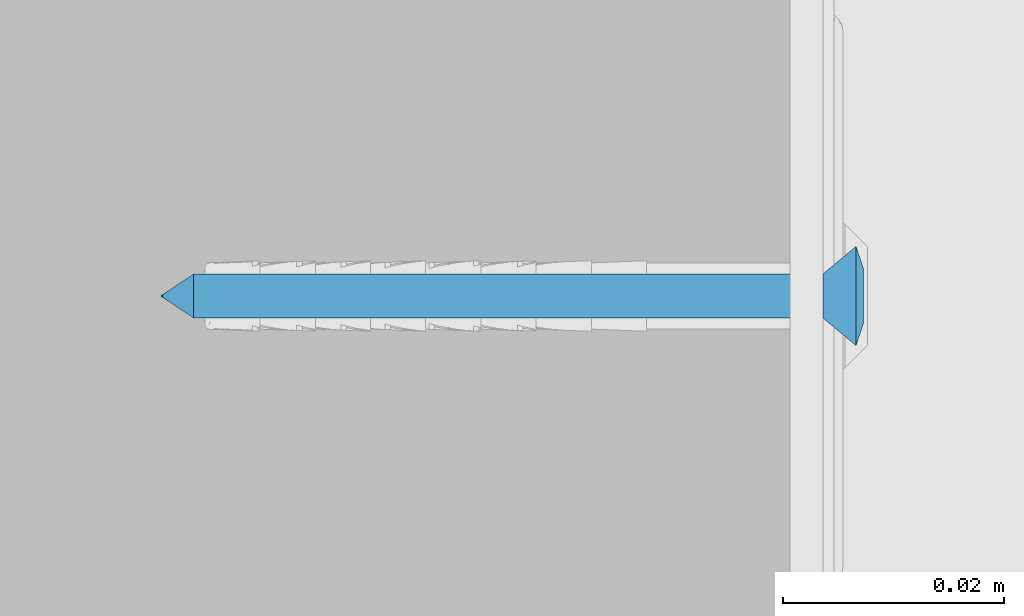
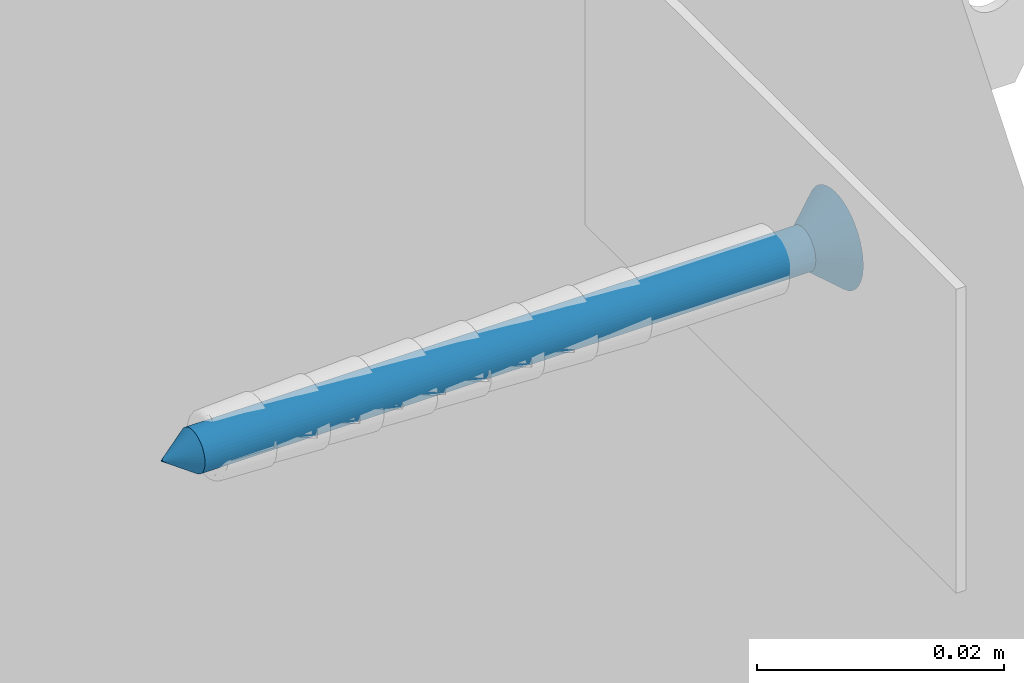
# One storey, part 25 of 62: 1 wall.
"""IFC2X3 building model written with IfcOpenShell, lengths in millimetres."""

from ifc_helpers import new_model, si_unit, frame, origin_with_axes, place, context, subcontext, project, spatial, faceted_brep, material, type_object, element, save


model = new_model("IFC2X3")

# Units and contexts
model_context = context("Model", 3, world=origin_with_axes())
body_context = subcontext(model_context, "Body", "Model", "MODEL_VIEW")
ifc_project = project(units=[si_unit("LENGTHUNIT", "METRE", prefix="MILLI"), si_unit("AREAUNIT", "SQUARE_METRE"), si_unit("VOLUMEUNIT", "CUBIC_METRE")], contexts=[model_context])

# Site, building, storey
site_placement = place(None, frame((2152.14102611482, -2015.0250894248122, 57.61556563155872), z_axis=(0.0, 0.0, 1.0), x_axis=(-1.1102230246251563e-16, 1.0, 0.0)))
site = spatial("IfcSite", under=ifc_project, at=site_placement, Name="Default Site", CompositionType="ELEMENT")
building_placement = place(site_placement, origin_with_axes())
building = spatial("IfcBuilding", under=site, at=building_placement, Name="Default Building", CompositionType="ELEMENT")
storey_placement = place(building_placement, origin_with_axes())
storey = spatial("IfcBuildingStorey", under=building, at=storey_placement, Name="Default Building Storey", CompositionType="ELEMENT", Elevation=57.61556563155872)

# Wall
ifc_material = material(Name="Default")
wall_type = type_object("IfcWallType", Name="Kołek rozporowy min. fi 6#35", PredefinedType="NOTDEFINED")
wall_placement = place(storey_placement, frame((6291.176283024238, 2016.3286110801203, 3824.598905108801), z_axis=(-6.858158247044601e-13, -1.0, 7.64238051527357e-14), x_axis=(-1.6476028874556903e-11, 7.642380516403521e-14, 1.0)))
element("IfcWall", 1, at=wall_placement, inside=storey, type_object=wall_type, material=ifc_material, Name="Kołek rozporowy min. fi 6", context=body_context, shape_type="Brep", body=[
    faceted_brep([(-1438.3141994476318, 3453.2833099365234, -0.46425670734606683), (-1435.8141422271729, 3453.2833099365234, -3.464256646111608), (-1435.7895851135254, 3452.970266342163, -3.464256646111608), (-1438.2587671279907, 3452.579259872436, -0.46425670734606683), (-1435.7162714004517, 3452.6650905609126, -3.464256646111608), (-1438.093900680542, 3451.892614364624, -0.46425670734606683), (-1435.5961084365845, 3452.3751735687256, -3.464256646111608), (-1437.8236532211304, 3451.240301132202, -0.46425670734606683), (-1435.4321956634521, 3452.107667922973, -3.464256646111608), (-1437.4547004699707, 3450.6382942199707, -0.46425670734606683), (-1435.22834777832, 3451.8690109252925, -3.464256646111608), (-1436.9961023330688, 3450.101137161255, -0.46425670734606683), (-1434.9896907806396, 3451.665163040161, -3.464256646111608), (-1436.4591836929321, 3449.642658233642, -0.46425670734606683), (-1434.7221851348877, 3451.501131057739, -3.464256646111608), (-1435.8570575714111, 3449.2735862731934, -0.46425670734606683), (-1434.4321489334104, 3451.381206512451, -3.464256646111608), (-1435.2047443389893, 3449.0034580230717, -0.46425670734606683), (-1434.1269731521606, 3451.307773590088, -3.464256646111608), (-1434.5180988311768, 3448.838710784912, -0.46425670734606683), (-1433.8141679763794, 3451.28321647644, -3.464256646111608), (-1433.8141679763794, 3448.7831592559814, -0.46425670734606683), (-1433.5012435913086, 3451.307773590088, -3.464256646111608), (-1433.110237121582, 3448.838710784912, -0.46425670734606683), (-1433.1960678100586, 3451.381206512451, -3.464256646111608), (-1432.4235916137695, 3449.0034580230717, -0.46425670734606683), (-1432.9061508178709, 3451.501131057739, -3.464256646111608), (-1431.771159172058, 3449.2735862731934, -0.46425670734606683), (-1432.6385259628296, 3451.665163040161, -3.464256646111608), (-1431.1691522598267, 3449.642658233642, -0.46425670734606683), (-1432.3999881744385, 3451.8690109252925, -3.464256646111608), (-1430.6321144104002, 3450.101137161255, -0.46425670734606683), (-1432.1961402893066, 3452.107667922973, -3.464256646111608), (-1430.1735162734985, 3450.6382942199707, -0.46425670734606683), (-1432.0321083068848, 3452.3751735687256, -3.464256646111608), (-1429.8045635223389, 3451.240301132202, -0.46425670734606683), (-1431.9120645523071, 3452.6650905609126, -3.464256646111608), (-1429.5344352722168, 3451.892614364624, -0.46425670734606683), (-1431.8387508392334, 3453.5961151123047, -3.464256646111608), (-1429.369568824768, 3453.9871215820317, -0.46425670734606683), (-1429.314136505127, 3453.2833099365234, -0.46425670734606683), (-1431.814193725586, 3453.2833099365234, -3.464256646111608), (-1429.369568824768, 3452.579259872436, -0.46425670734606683), (-1431.8387508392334, 3452.970266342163, -3.464256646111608), (-1431.9120645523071, 3453.9012908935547, -3.464256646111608), (-1429.5344352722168, 3454.6737670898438, -0.46425670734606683), (-1432.0321083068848, 3454.191207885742, -3.464256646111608), (-1429.8045635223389, 3455.3260803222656, -0.46425670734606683), (-1432.1961402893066, 3454.458713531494, -3.464256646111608), (-1430.1735162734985, 3455.9283256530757, -0.46425670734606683), (-1432.3999881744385, 3454.6973705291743, -3.464256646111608), (-1430.6321144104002, 3456.465244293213, -0.46425670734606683), (-1432.6385259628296, 3454.9012184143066, -3.464256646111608), (-1431.1691522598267, 3456.923723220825, -0.46425670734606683), (-1432.9061508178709, 3455.065250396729, -3.464256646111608), (-1431.771159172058, 3457.2927951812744, -0.46425670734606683), (-1433.1960678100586, 3455.1854133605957, -3.464256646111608), (-1432.4235916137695, 3457.562923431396, -0.46425670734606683), (-1433.5012435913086, 3455.25860786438, -3.464256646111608), (-1433.110237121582, 3457.7279090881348, -0.46425670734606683), (-1433.8141679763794, 3455.283164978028, -3.464256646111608), (-1433.8141679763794, 3457.7832221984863, -0.46425670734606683), (-1434.3430995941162, 3457.7519893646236, -0.46425670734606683), (-1434.1269731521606, 3455.25860786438, -3.464256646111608), (-1434.4321489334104, 3455.1854133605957, -3.464256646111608), (-1434.8646402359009, 3457.6590061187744, -0.46425670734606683), (-1435.3716373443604, 3457.504987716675, -0.46425670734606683), (-1434.7221851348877, 3455.065250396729, -3.464256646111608), (-1435.8570575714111, 3457.2927951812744, -0.46425670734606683), (-1434.9896907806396, 3454.9012184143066, -3.464256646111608), (-1435.22834777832, 3454.6973705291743, -3.464256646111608), (-1436.3142251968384, 3457.024812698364, -0.46425670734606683), (-1436.7367029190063, 3456.705093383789, -0.46425670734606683), (-1437.118649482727, 3456.337928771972, -0.46425670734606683), (-1437.4547004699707, 3455.9283256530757, -0.46425670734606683), (-1435.4321956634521, 3454.458713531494, -3.464256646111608), (-1435.5961084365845, 3454.191207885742, -3.464256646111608), (-1437.8236532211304, 3455.3260803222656, -0.46425670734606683), (-1435.7162714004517, 3453.9012908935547, -3.464256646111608), (-1438.093900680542, 3454.6737670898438, -0.46425670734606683), (-1435.7895851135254, 3453.5961151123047, -3.464256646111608), (-1438.2587671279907, 3453.9871215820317, -0.46425670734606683), (-1434.2052936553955, 3455.752372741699, 0.20073754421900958), (-1433.8141679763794, 3455.7831287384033, 0.20073754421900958), (-1434.5866441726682, 3455.6608200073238, 0.20073754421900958), (-1434.9491596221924, 3455.510854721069, 0.20073754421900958), (-1435.2836608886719, 3455.305814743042, 0.20073754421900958), (-1435.581922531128, 3455.0509452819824, 0.20073754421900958), (-1435.836672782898, 3454.7526836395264, 0.20073754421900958), (-1436.0417127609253, 3454.418182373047, 0.20073754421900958), (-1436.1917972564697, 3454.0557861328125, 0.20073754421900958), (-1436.2833499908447, 3453.6743164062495, 0.20073754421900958), (-1436.3141059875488, 3453.2833099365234, 0.20073754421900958), (-1436.2833499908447, 3452.8920650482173, 0.20073754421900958), (-1436.1917972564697, 3452.5105953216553, 0.20073754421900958), (-1436.0417127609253, 3452.148199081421, 0.20073754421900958), (-1435.836672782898, 3451.8136978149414, 0.20073754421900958), (-1435.581922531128, 3451.5154361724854, 0.20073754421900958), (-1435.2836608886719, 3451.260566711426, 0.20073754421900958), (-1434.9491596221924, 3451.0557651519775, 0.20073754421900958), (-1434.5866441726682, 3450.905561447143, 0.20073754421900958), (-1433.4230422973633, 3450.8140087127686, 0.20073754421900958), (-1433.8141679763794, 3450.7832527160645, 0.20073754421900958), (-1434.2052936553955, 3450.8140087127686, 0.20073754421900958), (-1433.0415725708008, 3450.905561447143, 0.20073754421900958), (-1432.6791763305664, 3451.0557651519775, 0.20073754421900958), (-1432.344675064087, 3451.260566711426, 0.20073754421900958), (-1432.0464134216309, 3451.5154361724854, 0.20073754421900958), (-1431.7916631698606, 3451.8136978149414, 0.20073754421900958), (-1431.5866231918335, 3452.148199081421, 0.20073754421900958), (-1431.436538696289, 3452.5105953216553, 0.20073754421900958), (-1431.344985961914, 3452.8920650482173, 0.20073754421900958), (-1431.3141107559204, 3453.2833099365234, 0.20073754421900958), (-1431.344985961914, 3453.6743164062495, 0.20073754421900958), (-1431.436538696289, 3454.0557861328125, 0.20073754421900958), (-1431.5866231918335, 3454.418182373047, 0.20073754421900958), (-1431.7916631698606, 3454.7526836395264, 0.20073754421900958), (-1432.0464134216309, 3455.0509452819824, 0.20073754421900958), (-1432.344675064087, 3455.305814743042, 0.20073754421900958), (-1432.6791763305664, 3455.510854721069, 0.20073754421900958), (-1433.0415725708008, 3455.6608200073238, 0.20073754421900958), (-1433.4230422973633, 3455.752372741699, 0.20073754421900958), (-1433.8141679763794, 3453.2833099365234, -63.46425414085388), (-1435.7895851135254, 3452.970266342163, -60.464255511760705), (-1435.8141422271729, 3453.2833099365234, -60.464255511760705), (-1435.7162714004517, 3452.6650905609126, -60.464255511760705), (-1435.5961084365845, 3452.3751735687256, -60.464255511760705), (-1435.4321956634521, 3452.107667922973, -60.464255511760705), (-1435.22834777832, 3451.8690109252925, -60.464255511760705), (-1434.9896907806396, 3451.665163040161, -60.464255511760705), (-1434.7221851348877, 3451.501131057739, -60.464255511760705), (-1434.4321489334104, 3451.381206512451, -60.464255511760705), (-1434.1269731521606, 3451.307773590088, -60.464255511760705), (-1433.8141679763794, 3451.28321647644, -60.464255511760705), (-1433.5012435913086, 3451.307773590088, -60.464255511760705), (-1433.1960678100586, 3451.381206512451, -60.464255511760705), (-1432.9061508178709, 3451.501131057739, -60.464255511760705), (-1432.6385259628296, 3451.665163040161, -60.464255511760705), (-1432.3999881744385, 3451.8690109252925, -60.464255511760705), (-1432.1961402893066, 3452.107667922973, -60.464255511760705), (-1432.0321083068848, 3452.3751735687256, -60.464255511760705), (-1431.9120645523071, 3452.6650905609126, -60.464255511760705), (-1431.8387508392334, 3452.970266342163, -60.464255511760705), (-1431.814193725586, 3453.2833099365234, -60.464255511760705), (-1431.8387508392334, 3453.5961151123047, -60.464255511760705), (-1431.9120645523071, 3453.9012908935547, -60.464255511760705), (-1432.0321083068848, 3454.191207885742, -60.464255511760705), (-1432.1961402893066, 3454.458713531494, -60.464255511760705), (-1432.3999881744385, 3454.6973705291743, -60.464255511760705), (-1432.6385259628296, 3454.9012184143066, -60.464255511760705), (-1432.9061508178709, 3455.065250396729, -60.464255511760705), (-1433.1960678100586, 3455.1854133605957, -60.464255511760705), (-1433.5012435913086, 3455.25860786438, -60.464255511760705), (-1433.8141679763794, 3455.283164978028, -60.464255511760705), (-1434.1269731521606, 3455.25860786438, -60.464255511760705), (-1434.4321489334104, 3455.1854133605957, -60.464255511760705), (-1434.7221851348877, 3455.065250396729, -60.464255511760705), (-1434.9896907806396, 3454.9012184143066, -60.464255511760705), (-1435.22834777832, 3454.6973705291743, -60.464255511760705), (-1435.4321956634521, 3454.458713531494, -60.464255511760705), (-1435.5961084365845, 3454.191207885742, -60.464255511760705), (-1435.7162714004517, 3453.9012908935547, -60.464255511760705), (-1435.7895851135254, 3453.5961151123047, -60.464255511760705), (-1436.0417127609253, 3454.418182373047, 0.049999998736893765), (-1436.1917972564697, 3454.0557861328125, 0.049999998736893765), (-1436.2833499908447, 3453.6743164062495, 0.049999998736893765), (-1436.3141059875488, 3453.2833099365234, 0.049999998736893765), (-1436.2833499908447, 3452.8920650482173, 0.049999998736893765), (-1436.1917972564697, 3452.5105953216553, 0.049999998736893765), (-1436.0417127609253, 3452.148199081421, 0.049999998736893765), (-1435.836672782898, 3451.8136978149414, 0.049999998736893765), (-1435.581922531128, 3451.5154361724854, 0.049999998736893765), (-1435.2836608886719, 3451.260566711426, 0.049999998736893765), (-1434.9491596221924, 3451.0557651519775, 0.049999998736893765), (-1434.5866441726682, 3450.905561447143, 0.049999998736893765), (-1434.2052936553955, 3450.8140087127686, 0.049999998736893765), (-1433.8141679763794, 3450.7832527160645, 0.049999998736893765), (-1433.4230422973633, 3450.8140087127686, 0.049999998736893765), (-1433.0415725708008, 3450.905561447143, 0.049999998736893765), (-1432.6791763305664, 3451.0557651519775, 0.049999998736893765), (-1432.344675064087, 3451.260566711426, 0.049999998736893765), (-1432.0464134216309, 3451.5154361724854, 0.049999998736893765), (-1431.7916631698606, 3451.8136978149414, 0.049999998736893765), (-1431.5866231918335, 3452.148199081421, 0.049999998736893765), (-1431.436538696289, 3452.5105953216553, 0.049999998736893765), (-1431.344985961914, 3452.8920650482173, 0.049999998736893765), (-1431.3141107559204, 3453.2833099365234, 0.049999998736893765), (-1431.344985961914, 3453.6743164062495, 0.049999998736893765), (-1431.436538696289, 3454.0557861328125, 0.049999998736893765), (-1431.5866231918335, 3454.418182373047, 0.049999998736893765), (-1431.7916631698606, 3454.7526836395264, 0.049999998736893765), (-1432.0464134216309, 3455.0509452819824, 0.049999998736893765), (-1432.344675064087, 3455.305814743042, 0.049999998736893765), (-1432.6791763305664, 3455.510854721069, 0.049999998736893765), (-1433.0415725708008, 3455.6608200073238, 0.049999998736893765), (-1433.4230422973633, 3455.752372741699, 0.049999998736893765), (-1433.8141679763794, 3455.7831287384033, 0.049999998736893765), (-1434.2052936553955, 3455.752372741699, 0.049999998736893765), (-1434.5866441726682, 3455.6608200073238, 0.049999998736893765), (-1434.9491596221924, 3455.510854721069, 0.049999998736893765), (-1435.2836608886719, 3455.305814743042, 0.049999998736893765), (-1435.581922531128, 3455.0509452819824, 0.049999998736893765), (-1435.836672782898, 3454.7526836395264, 0.049999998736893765), (-1434.3141317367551, 3452.7831077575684, 0.049999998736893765), (-1435.8141422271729, 3452.7831077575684, 0.049999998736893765), (-1435.8141422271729, 3453.7832736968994, 0.049999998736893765), (-1434.3141317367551, 3453.7832736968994, 0.049999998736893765), (-1434.3141317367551, 3455.283164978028, 0.049999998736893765), (-1433.3142042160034, 3455.283164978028, 0.049999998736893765), (-1433.3142042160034, 3453.7832736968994, 0.049999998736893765), (-1431.814193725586, 3453.7832736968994, 0.049999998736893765), (-1431.814193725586, 3452.7831077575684, 0.049999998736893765), (-1433.3142042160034, 3452.7831077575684, 0.049999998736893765), (-1433.3142042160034, 3451.28321647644, 0.049999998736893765), (-1434.3141317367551, 3451.28321647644, 0.049999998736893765), (-1434.3141317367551, 3452.7831077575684, -1.799262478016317), (-1434.3141317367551, 3451.28321647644, -1.799262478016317), (-1433.3142042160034, 3451.28321647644, -1.799262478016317), (-1433.3142042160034, 3452.7831077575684, -1.799262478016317), (-1431.814193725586, 3452.7831077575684, -1.799262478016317), (-1431.814193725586, 3453.7832736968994, -1.799262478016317), (-1433.3142042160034, 3453.7832736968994, -1.799262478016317), (-1433.3142042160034, 3455.283164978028, -1.799262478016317), (-1434.3141317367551, 3455.283164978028, -1.799262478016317), (-1434.3141317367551, 3453.7832736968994, -1.799262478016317), (-1435.8141422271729, 3453.7832736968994, -1.799262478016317), (-1435.8141422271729, 3452.7831077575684, -1.799262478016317)], [[[0, 1, 2, 3]], [[4, 5, 3, 2]], [[6, 7, 5, 4]], [[7, 6, 8, 9]], [[10, 11, 9, 8]], [[11, 10, 12, 13]], [[14, 15, 13, 12]], [[16, 17, 15, 14]], [[17, 16, 18, 19]], [[20, 21, 19, 18]], [[21, 20, 22, 23]], [[24, 25, 23, 22]], [[26, 27, 25, 24]], [[27, 26, 28, 29]], [[30, 31, 29, 28]], [[31, 30, 32, 33]], [[34, 35, 33, 32]], [[36, 37, 35, 34]], [[38, 39, 40, 41]], [[41, 40, 42, 43]], [[37, 36, 43, 42]], [[44, 45, 39, 38]], [[46, 47, 45, 44]], [[47, 46, 48, 49]], [[50, 51, 49, 48]], [[51, 50, 52, 53]], [[54, 55, 53, 52]], [[56, 57, 55, 54]], [[57, 56, 58, 59]], [[60, 61, 59, 58]], [[62, 61, 63]], [[61, 60, 63]], [[63, 64, 62]], [[64, 65, 62]], [[66, 65, 64]], [[64, 67, 66]], [[67, 68, 66]], [[69, 70, 71]], [[70, 72, 71]], [[71, 68, 69]], [[68, 67, 69]], [[70, 73, 72]], [[74, 73, 75]], [[73, 70, 75]], [[76, 77, 74, 75]], [[78, 79, 77, 76]], [[79, 78, 80, 81]], [[1, 0, 81, 80]], [[82, 83, 62]], [[83, 61, 62]], [[62, 65, 82]], [[65, 84, 82]], [[66, 68, 84]], [[68, 85, 84]], [[84, 65, 66]], [[86, 85, 71]], [[85, 68, 71]], [[72, 73, 87]], [[87, 86, 72]], [[86, 71, 72]], [[88, 87, 74]], [[87, 73, 74]], [[77, 89, 88, 74]], [[79, 90, 89, 77]], [[90, 79, 81, 91]], [[0, 92, 91, 81]], [[92, 0, 3, 93]], [[5, 94, 93, 3]], [[7, 95, 94, 5]], [[95, 7, 9, 96]], [[11, 97, 96, 9]], [[97, 11, 13, 98]], [[15, 99, 98, 13]], [[17, 100, 99, 15]], [[23, 101, 102, 21]], [[21, 102, 103, 19]], [[100, 17, 19, 103]], [[25, 104, 101, 23]], [[27, 105, 104, 25]], [[105, 27, 29, 106]], [[31, 107, 106, 29]], [[107, 31, 33, 108]], [[35, 109, 108, 33]], [[37, 110, 109, 35]], [[110, 37, 42, 111]], [[40, 112, 111, 42]], [[112, 40, 39, 113]], [[45, 114, 113, 39]], [[47, 115, 114, 45]], [[115, 47, 49, 116]], [[51, 117, 116, 49]], [[117, 51, 53, 118]], [[55, 119, 118, 53]], [[57, 120, 119, 55]], [[120, 57, 59, 121]], [[61, 83, 121, 59]], [[122, 123, 124]], [[122, 125, 123]], [[122, 126, 125]], [[127, 126, 122]], [[122, 128, 127]], [[129, 128, 122]], [[122, 130, 129]], [[122, 131, 130]], [[132, 131, 122]], [[122, 133, 132]], [[134, 133, 122]], [[122, 135, 134]], [[122, 136, 135]], [[137, 136, 122]], [[122, 138, 137]], [[139, 138, 122]], [[122, 140, 139]], [[122, 141, 140]], [[142, 141, 122]], [[122, 143, 142]], [[144, 143, 122]], [[122, 145, 144]], [[122, 146, 145]], [[147, 146, 122]], [[122, 148, 147]], [[149, 148, 122]], [[122, 150, 149]], [[122, 151, 150]], [[152, 151, 122]], [[122, 153, 152]], [[154, 153, 122]], [[122, 155, 154]], [[122, 156, 155]], [[157, 156, 122]], [[122, 158, 157]], [[159, 158, 122]], [[122, 160, 159]], [[122, 161, 160]], [[162, 161, 122]], [[124, 162, 122]], [[1, 124, 123, 2]], [[125, 4, 2, 123]], [[126, 6, 4, 125]], [[6, 126, 127, 8]], [[128, 10, 8, 127]], [[10, 128, 129, 12]], [[130, 14, 12, 129]], [[131, 16, 14, 130]], [[16, 131, 132, 18]], [[133, 20, 18, 132]], [[20, 133, 134, 22]], [[135, 24, 22, 134]], [[136, 26, 24, 135]], [[26, 136, 137, 28]], [[138, 30, 28, 137]], [[30, 138, 139, 32]], [[140, 34, 32, 139]], [[141, 36, 34, 140]], [[144, 38, 41, 143]], [[143, 41, 43, 142]], [[36, 141, 142, 43]], [[145, 44, 38, 144]], [[146, 46, 44, 145]], [[46, 146, 147, 48]], [[148, 50, 48, 147]], [[50, 148, 149, 52]], [[150, 54, 52, 149]], [[151, 56, 54, 150]], [[56, 151, 152, 58]], [[153, 60, 58, 152]], [[60, 153, 154, 63]], [[155, 64, 63, 154]], [[156, 67, 64, 155]], [[67, 156, 157, 69]], [[158, 70, 69, 157]], [[70, 158, 159, 75]], [[160, 76, 75, 159]], [[161, 78, 76, 160]], [[78, 161, 162, 80]], [[124, 1, 80, 162]], [[163, 164, 165, 166, 167, 168, 169, 170, 171, 172, 173, 174, 175, 176, 177, 178, 179, 180, 181, 182, 183, 184, 185, 186, 187, 188, 189, 190, 191, 192, 193, 194, 195, 196, 197, 198, 199, 200, 201, 202], [203, 204, 205, 206, 207, 208, 209, 210, 211, 212, 213, 214]], [[187, 186, 112, 113]], [[113, 114, 188, 187]], [[114, 115, 189, 188]], [[190, 189, 115, 116]], [[116, 117, 191, 190]], [[192, 191, 117, 118]], [[118, 119, 193, 192]], [[119, 120, 194, 193]], [[195, 194, 120, 121]], [[121, 83, 196, 195]], [[197, 196, 83, 82]], [[82, 84, 198, 197]], [[84, 85, 199, 198]], [[200, 199, 85, 86]], [[86, 87, 201, 200]], [[202, 201, 87, 88]], [[88, 89, 163, 202]], [[89, 90, 164, 163]], [[92, 93, 167, 166]], [[91, 92, 166, 165]], [[165, 164, 90, 91]], [[93, 94, 168, 167]], [[94, 95, 169, 168]], [[170, 169, 95, 96]], [[96, 97, 171, 170]], [[172, 171, 97, 98]], [[98, 99, 173, 172]], [[99, 100, 174, 173]], [[175, 174, 100, 103]], [[103, 102, 176, 175]], [[177, 176, 102, 101]], [[101, 104, 178, 177]], [[104, 105, 179, 178]], [[180, 179, 105, 106]], [[106, 107, 181, 180]], [[182, 181, 107, 108]], [[108, 109, 183, 182]], [[109, 110, 184, 183]], [[185, 184, 110, 111]], [[111, 112, 186, 185]], [[215, 216, 217, 218, 219, 220, 221, 222, 223, 224, 225, 226]], [[216, 214, 213, 217]], [[215, 203, 214, 216]], [[226, 204, 203, 215]], [[225, 205, 204, 226]], [[224, 206, 205, 225]], [[223, 207, 206, 224]], [[222, 208, 207, 223]], [[221, 209, 208, 222]], [[220, 210, 209, 221]], [[219, 211, 210, 220]], [[218, 212, 211, 219]], [[217, 213, 212, 218]]]),
])

save(model, "model.ifc")
